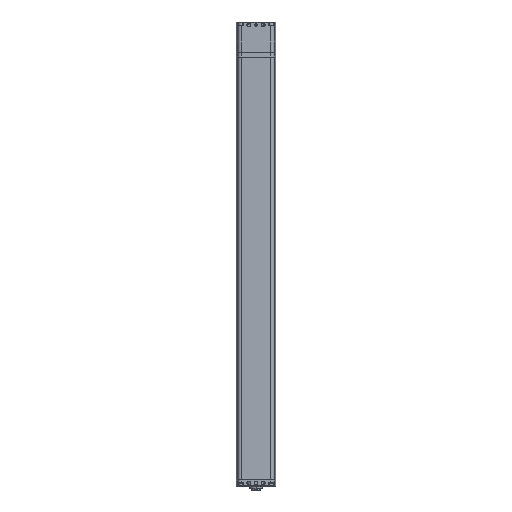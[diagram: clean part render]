
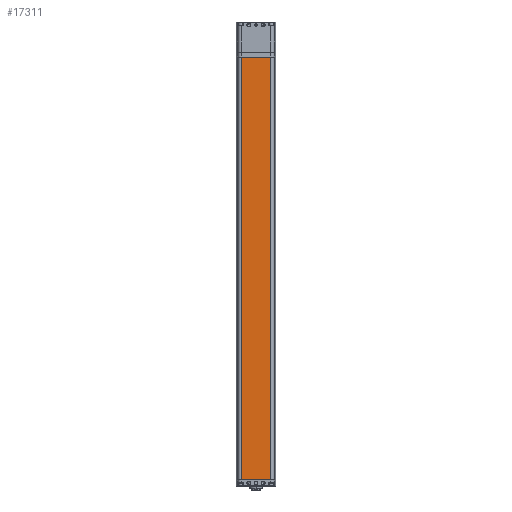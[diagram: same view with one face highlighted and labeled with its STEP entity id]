
A CAD part, front view. The second image highlights one B-rep face of the part: STEP entity #17311.
In plain terms, the highlighted planar face has unit normal (0, -1, 0).
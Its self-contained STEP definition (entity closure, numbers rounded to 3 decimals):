
#413 = VECTOR ( 'NONE', #11375, 1000. ) ;
#756 = FACE_OUTER_BOUND ( 'NONE', #17791, .T. ) ;
#826 = CARTESIAN_POINT ( 'NONE',  ( -31.138, -41., -1073. ) ) ;
#1227 = CARTESIAN_POINT ( 'NONE',  ( -31.138, -41., -951. ) ) ;
#1230 = VERTEX_POINT ( 'NONE', #14282 ) ;
#2140 = EDGE_CURVE ( 'NONE', #18281, #12518, #16031, .T. ) ;
#2798 = CARTESIAN_POINT ( 'NONE',  ( 31.138, -41., -1073. ) ) ;
#4538 = CARTESIAN_POINT ( 'NONE',  ( -41., -41., -951. ) ) ;
#6001 = AXIS2_PLACEMENT_3D ( 'NONE', #21813, #18100, #19899 ) ;
#7091 = EDGE_CURVE ( 'NONE', #18281, #1230, #10802, .T. ) ;
#7135 = CARTESIAN_POINT ( 'NONE',  ( 31.138, -41., -951. ) ) ;
#7627 = VECTOR ( 'NONE', #21165, 1000. ) ;
#9747 = EDGE_CURVE ( 'NONE', #10356, #1230, #13174, .T. ) ;
#10356 = VERTEX_POINT ( 'NONE', #7135 ) ;
#10401 = ORIENTED_EDGE ( 'NONE', *, *, #2140, .T. ) ;
#10469 = CARTESIAN_POINT ( 'NONE',  ( -41., -41., -73. ) ) ;
#10802 = LINE ( 'NONE', #10469, #7627 ) ;
#11375 = DIRECTION ( 'NONE',  ( 0., 0., 1. ) ) ;
#11421 = DIRECTION ( 'NONE',  ( 1., 0., 0. ) ) ;
#12518 = VERTEX_POINT ( 'NONE', #1227 ) ;
#13174 = LINE ( 'NONE', #2798, #413 ) ;
#14282 = CARTESIAN_POINT ( 'NONE',  ( 31.138, -41., -73. ) ) ;
#14755 = EDGE_CURVE ( 'NONE', #12518, #10356, #14806, .T. ) ;
#14806 = LINE ( 'NONE', #4538, #18450 ) ;
#14945 = PLANE ( 'NONE',  #6001 ) ;
#16031 = LINE ( 'NONE', #826, #18501 ) ;
#16265 = ORIENTED_EDGE ( 'NONE', *, *, #9747, .T. ) ;
#17311 = ADVANCED_FACE ( 'NONE', ( #756 ), #14945, .T. ) ;
#17727 = DIRECTION ( 'NONE',  ( 0., 0., -1. ) ) ;
#17791 = EDGE_LOOP ( 'NONE', ( #10401, #18894, #16265, #18541 ) ) ;
#18100 = DIRECTION ( 'NONE',  ( 0., -1., 0. ) ) ;
#18281 = VERTEX_POINT ( 'NONE', #22180 ) ;
#18450 = VECTOR ( 'NONE', #11421, 1000. ) ;
#18501 = VECTOR ( 'NONE', #17727, 1000. ) ;
#18541 = ORIENTED_EDGE ( 'NONE', *, *, #7091, .F. ) ;
#18894 = ORIENTED_EDGE ( 'NONE', *, *, #14755, .T. ) ;
#19899 = DIRECTION ( 'NONE',  ( 0., 0., -1. ) ) ;
#21165 = DIRECTION ( 'NONE',  ( 1., 0., 0. ) ) ;
#21813 = CARTESIAN_POINT ( 'NONE',  ( -41., -41., -1073. ) ) ;
#22180 = CARTESIAN_POINT ( 'NONE',  ( -31.138, -41., -73. ) ) ;
